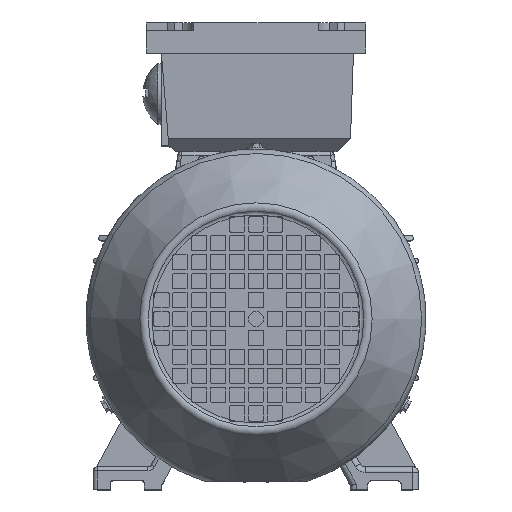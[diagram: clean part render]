
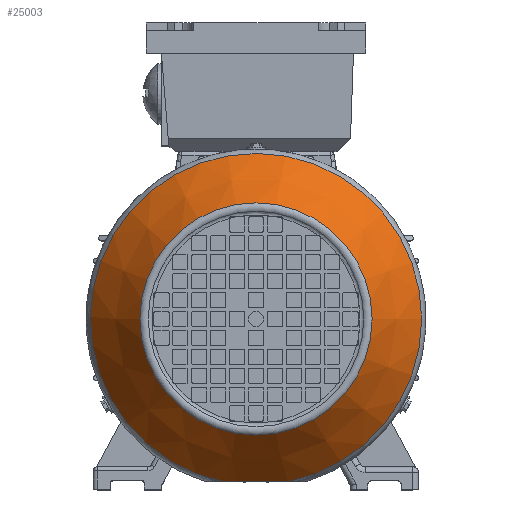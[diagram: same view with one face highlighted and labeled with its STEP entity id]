
A CAD part, top view. The second image highlights one B-rep face of the part: STEP entity #25003.
In plain terms, the highlighted conical face has half-angle 35 degrees and reference radius 87.649 mm.
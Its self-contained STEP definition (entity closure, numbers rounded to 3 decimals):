
#128=(
BOUNDED_CURVE()
B_SPLINE_CURVE(2,(#36890,#36891,#36892),.UNSPECIFIED.,.F.,.F.)
B_SPLINE_CURVE_WITH_KNOTS((3,3),(6.234,10.645),
 .UNSPECIFIED.)
CURVE()
GEOMETRIC_REPRESENTATION_ITEM()
RATIONAL_B_SPLINE_CURVE((1.15,1.173,1.15))
REPRESENTATION_ITEM('')
);
#1414=CONICAL_SURFACE('',#26607,87.649,0.611);
#1517=FACE_OUTER_BOUND('',#3005,.T.);
#3005=EDGE_LOOP('',(#16948,#16949,#16950,#16951,#16952,#16953));
#4589=LINE('',#36894,#6894);
#6894=VECTOR('',#29389,87.649);
#9266=CIRCLE('',#26605,61.457);
#9268=CIRCLE('',#26608,87.649);
#9269=CIRCLE('',#26609,87.649);
#10428=VERTEX_POINT('',#36882);
#10429=VERTEX_POINT('',#36886);
#10430=VERTEX_POINT('',#36887);
#10431=VERTEX_POINT('',#36889);
#12985=EDGE_CURVE('',#10428,#10428,#9266,.T.);
#12987=EDGE_CURVE('',#10429,#10430,#9268,.T.);
#12988=EDGE_CURVE('',#10431,#10429,#128,.T.);
#12989=EDGE_CURVE('',#10430,#10431,#9269,.T.);
#12990=EDGE_CURVE('',#10430,#10428,#4589,.T.);
#16948=ORIENTED_EDGE('',*,*,#12987,.F.);
#16949=ORIENTED_EDGE('',*,*,#12988,.F.);
#16950=ORIENTED_EDGE('',*,*,#12989,.F.);
#16951=ORIENTED_EDGE('',*,*,#12990,.T.);
#16952=ORIENTED_EDGE('',*,*,#12985,.T.);
#16953=ORIENTED_EDGE('',*,*,#12990,.F.);
#25003=ADVANCED_FACE('',(#1517),#1414,.T.);
#26605=AXIS2_PLACEMENT_3D('',#36883,#29379,#29380);
#26607=AXIS2_PLACEMENT_3D('',#36885,#29383,#29384);
#26608=AXIS2_PLACEMENT_3D('',#36888,#29385,#29386);
#26609=AXIS2_PLACEMENT_3D('',#36893,#29387,#29388);
#29379=DIRECTION('center_axis',(0.,0.,-1.));
#29380=DIRECTION('ref_axis',(-1.,0.,0.));
#29383=DIRECTION('center_axis',(0.,0.,-1.));
#29384=DIRECTION('ref_axis',(-1.,0.,0.));
#29385=DIRECTION('center_axis',(0.,0.,-1.));
#29386=DIRECTION('ref_axis',(-1.,0.,0.));
#29387=DIRECTION('center_axis',(0.,0.,-1.));
#29388=DIRECTION('ref_axis',(-1.,0.,0.));
#29389=DIRECTION('',(-0.574,0.,0.819));
#36882=CARTESIAN_POINT('',(61.457,0.,185.721));
#36883=CARTESIAN_POINT('Origin',(0.,0.,185.721));
#36885=CARTESIAN_POINT('Origin',(0.,0.,148.315));
#36886=CARTESIAN_POINT('',(-16.922,-86.,148.315));
#36887=CARTESIAN_POINT('',(87.649,0.,148.315));
#36888=CARTESIAN_POINT('Origin',(0.,0.,148.315));
#36889=CARTESIAN_POINT('',(16.922,-86.,148.315));
#36890=CARTESIAN_POINT('Ctrl Pts',(16.922,-86.,148.315));
#36891=CARTESIAN_POINT('Ctrl Pts',(0.,-86.,152.981));
#36892=CARTESIAN_POINT('Ctrl Pts',(-16.922,-86.,148.315));
#36893=CARTESIAN_POINT('Origin',(0.,0.,148.315));
#36894=CARTESIAN_POINT('',(87.649,0.,148.315));
